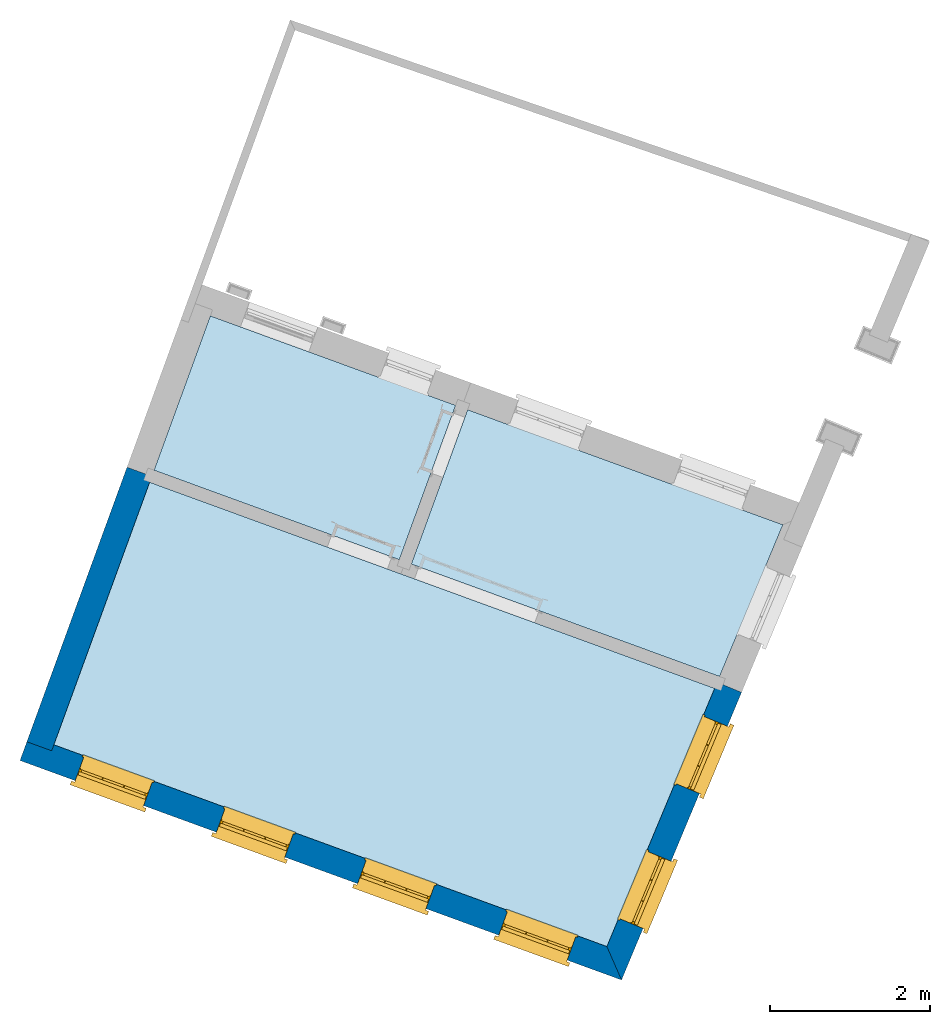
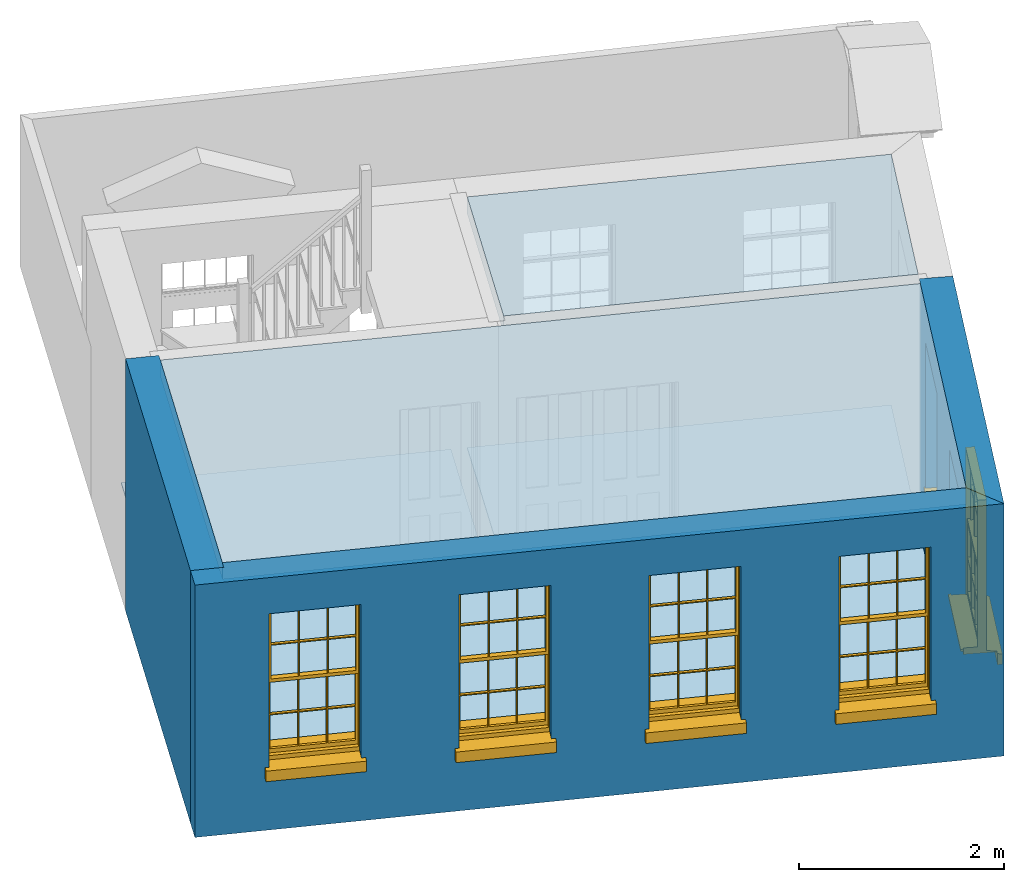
# One storey, part 1 of 6: 6 windows, 5 slabs, 3 walls, 6 openings.
"""IFC4 building model written with IfcOpenShell, lengths in metres."""

from ifc_helpers import new_model, si_unit, frame, origin, origin_with_axes, place, context, subcontext, project, spatial, polyline, outline, extrude, faceted_brep, source, transform, mapped, material, layer, layer_set, layer_usage, type_object, type_shapes, element, fill, save


model = new_model("IFC4")

# Units and contexts
model_context = context("Model", 3, world=origin_with_axes())
body_context = subcontext(model_context, "Body", "Model", "MODEL_VIEW")
ifc_project = project(units=[si_unit("PLANEANGLEUNIT", "RADIAN"), si_unit("MASSUNIT", "GRAM", prefix="KILO"), si_unit("FORCEUNIT", "NEWTON", prefix="KILO"), si_unit("LENGTHUNIT", "METRE"), si_unit("AREAUNIT", "SQUARE_METRE"), si_unit("VOLUMEUNIT", "CUBIC_METRE")], contexts=[model_context, model_context])

# Sites, building, storey
site_1_placement = place(None, origin_with_axes())
site_1 = spatial("IfcSite", under=ifc_project, at=site_1_placement, Name="Tamar")
site_2_placement = place(site_1_placement, origin_with_axes())
site_2 = spatial("IfcSite", under=site_1, at=site_2_placement, Name="Site plot-13", CompositionType="ELEMENT")
building_placement = place(None, origin_with_axes())
building = spatial("IfcBuilding", under=site_2, at=building_placement, Name="Building plot-13", CompositionType="ELEMENT")
storey_placement = place(None, frame((0.0, 0.0, 26.0), z_axis=(0.0, 0.0, 1.0), x_axis=(1.0, 0.0, 0.0)))
storey = spatial("IfcBuildingStorey", under=building, at=storey_placement, Name="plot-13 0", CompositionType="ELEMENT", Elevation=26.0)

# Slabs
slab_1_placement = place(storey_placement, frame((245.701009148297, 301.023785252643, 0.0)))
element("IfcSlab", 1, at=slab_1_placement, inside=storey, Name="My Slab", ObjectType="Slab", PredefinedType="FLOOR", context=body_context, shape_type="SweptSolid", body=[
    extrude(outline(polyline([(0.0, 0.0), (0.703407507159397, 1.92803364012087), (-2.36094619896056, 3.04600656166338), (-3.06435370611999, 1.11797292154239), (0.0, 0.0)])), origin_with_axes(), (0.0, 0.0, 1.0), 0.02),
])
slab_2_placement = place(storey_placement, frame((245.851318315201, 300.968947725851, 2.8)))
element("IfcSlab", 2, at=slab_2_placement, inside=storey, Name="My Slab", ObjectType="Slab", PredefinedType="FLOOR", context=body_context, shape_type="SweptSolid", body=[
    extrude(outline(polyline([(0.0, 0.0), (3.85091988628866, -1.40493708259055), (4.64220016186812, 0.491037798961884), (0.703407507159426, 1.92803364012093), (0.0, 0.0)])), origin_with_axes(), (0.0, 0.0, 1.0), 0.2),
])
slab_3_placement = place(storey_placement, frame((245.851318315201, 300.968947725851, 0.0)))
element("IfcSlab", 3, at=slab_3_placement, inside=storey, Name="My Slab", ObjectType="Slab", PredefinedType="FLOOR", context=body_context, shape_type="SweptSolid", body=[
    extrude(outline(polyline([(0.0, 0.0), (3.85091988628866, -1.40493708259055), (4.64220016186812, 0.491037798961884), (0.703407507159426, 1.92803364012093), (0.0, 0.0)])), origin_with_axes(), (0.0, 0.0, 1.0), 0.02),
])
slab_4_placement = place(storey_placement, frame((241.385160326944, 298.711421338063, 2.8)))
element("IfcSlab", 4, at=slab_4_placement, inside=storey, Name="My Slab", ObjectType="Slab", PredefinedType="FLOOR", context=body_context, shape_type="SweptSolid", body=[
    extrude(outline(polyline([(0.0, 0.0), (6.90924046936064, -2.52070893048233), (8.25538980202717, 0.704779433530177), (1.19665758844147, 3.28002766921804), (0.0, 0.0)])), origin_with_axes(), (0.0, 0.0, 1.0), 0.2),
])
slab_5_placement = place(storey_placement, frame((241.385160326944, 298.711421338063, 0.0)))
element("IfcSlab", 5, at=slab_5_placement, inside=storey, Name="My Slab", ObjectType="Slab", PredefinedType="FLOOR", context=body_context, shape_type="SweptSolid", body=[
    extrude(outline(polyline([(0.0, 0.0), (6.90924046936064, -2.52070893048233), (8.25538980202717, 0.704779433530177), (1.19665758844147, 3.28002766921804), (0.0, 0.0)])), origin_with_axes(), (0.0, 0.0, 1.0), 0.02),
])

# Wall, openings, windows
ifc_material_1 = material(Name="Masonry")
ifc_layer_1 = layer(ifc_material_1, 0.33, ventilated=False)
ifc_layer_set_1 = layer_set([ifc_layer_1], Name="exterior_0.08_0.25")
ifc_layer_usage_1 = layer_usage(ifc_layer_set_1, "AXIS2", "POSITIVE", -0.25)
wall_type_1 = type_object("IfcWallType", Name="exterior_0.08_0.25", PredefinedType="SOLIDWALL", material=ifc_layer_set_1)
wall_1_placement = place(storey_placement, frame((241.282586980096, 298.663685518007, 0.0), z_axis=(0.0, 0.0, 1.0), x_axis=(0.939432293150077, -0.342734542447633, 0.0)))
wall_1 = element("IfcWall", 6, at=wall_1_placement, inside=storey, type_object=wall_type_1, material=ifc_layer_usage_1, Name="exterior", context=body_context, shape_type="SweptSolid", body=[
    extrude(outline(polyline([(-0.249999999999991, 0.0800000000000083), (-0.249999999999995, -0.249999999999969), (7.74999999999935, -0.250000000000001), (7.43469763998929, 0.0800000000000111), (-0.249999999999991, 0.0800000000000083)])), origin_with_axes(), (0.0, 0.0, 1.0), 3.0),
])
opening_1_placement = place(wall_1_placement, frame((0.483891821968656, 0.0, 0.75)))
opening_1 = element("IfcOpeningElement", 7, at=opening_1_placement, cuts=wall_1, Name="My Opening", ObjectType="Opening", context=body_context, shape_type="SweptSolid", body=[
    extrude(outline(polyline([(0.0, -0.270000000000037), (0.910000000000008, -0.270000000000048), (0.909999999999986, 1.1), (-2.27595720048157e-14, 1.10000000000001), (0.0, -0.270000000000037)])), origin_with_axes(), (0.0, 0.0, 1.0), 1.82),
])
opening_2_placement = place(wall_1_placement, frame((2.36167546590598, 0.0, 0.75)))
opening_2 = element("IfcOpeningElement", 8, at=opening_2_placement, cuts=wall_1, Name="My Opening", ObjectType="Opening", context=body_context, shape_type="SweptSolid", body=[
    extrude(outline(polyline([(0.0, -0.270000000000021), (0.910000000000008, -0.270000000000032), (0.909999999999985, 1.10000000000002), (-2.26485497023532e-14, 1.10000000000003), (0.0, -0.270000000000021)])), origin_with_axes(), (0.0, 0.0, 1.0), 1.82),
])
opening_3_placement = place(wall_1_placement, frame((4.23945910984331, 0.0, 0.75)))
opening_3 = element("IfcOpeningElement", 9, at=opening_3_placement, cuts=wall_1, Name="My Opening", ObjectType="Opening", context=body_context, shape_type="SweptSolid", body=[
    extrude(outline(polyline([(0.0, -0.270000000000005), (0.910000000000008, -0.270000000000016), (0.909999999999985, 1.10000000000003), (-2.39808173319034e-14, 1.10000000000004), (0.0, -0.270000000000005)])), origin_with_axes(), (0.0, 0.0, 1.0), 1.82),
])
opening_4_placement = place(wall_1_placement, frame((6.11724275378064, 0.0, 0.75)))
opening_4 = element("IfcOpeningElement", 10, at=opening_4_placement, cuts=wall_1, Name="My Opening", ObjectType="Opening", context=body_context, shape_type="SweptSolid", body=[
    extrude(outline(polyline([(0.0, -0.269999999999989), (0.910000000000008, -0.270000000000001), (0.909999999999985, 1.10000000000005), (-2.30926389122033e-14, 1.10000000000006), (0.0, -0.269999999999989)])), origin_with_axes(), (0.0, 0.0, 1.0), 1.82),
])
window_type = type_object("IfcWindowType", Name="sash_big", PartitioningType="DOUBLE_PANEL_HORIZONTAL", PredefinedType="NOTDEFINED")
shared_shape = source(origin(), body_context, "Body", "Brep", [
    faceted_brep([(0.033125, 0.145, 0.975209), (0.01, 0.145, 0.975209), (0.033125, 0.145, 1.376042), (0.876875, 0.145, 0.975209), (0.876875, 0.145, 1.376042), (0.9, 0.145, 0.975209), (0.876875, 0.145, 1.386042), (0.876875, 0.145, 1.786875), (0.9, 0.145, 1.81), (0.033125, 0.145, 1.786875), (0.033125, 0.145, 1.386042), (0.01, 0.145, 1.81), (0.876875, 0.115, 1.376042), (0.876875, 0.115, 0.975209), (0.9, 0.115, 0.937083), (0.033125, 0.115, 1.786875), (0.01, 0.115, 1.81), (0.033125, 0.115, 1.386042), (0.01, 0.115, 0.937083), (0.033125, 0.115, 0.975209), (0.033125, 0.115, 1.376042), (0.876875, 0.115, 1.786875), (0.876875, 0.115, 1.386042), (0.9, 0.115, 1.81), (0.033125, 0.145, 0.937083), (0.01, 0.145, 0.937083), (0.033125, 0.145, 0.53625), (0.876875, 0.145, 0.937083), (0.876875, 0.145, 0.53625), (0.9, 0.145, 0.937083), (0.876875, 0.145, 0.52625), (0.876875, 0.145, 0.125417), (0.9, 0.145, 0.077167), (0.033125, 0.145, 0.125417), (0.033125, 0.145, 0.52625), (0.01, 0.145, 0.077167), (-0.0425, 0.0, 0.01), (-0.0425, -0.05, 0.001667), (0.0, 0.0, 0.01), (0.9525, 0.0, 0.01), (0.91, 0.0, 0.01), (0.9525, -0.05, 0.001667), (-0.02, 0.33, 0.077167), (0.0, 0.33, 0.077167), (-0.02, 0.36, 0.077167), (0.0, 0.19, 0.077167), (0.01, 0.19, 0.077167), (0.91, 0.19, 0.077167), (0.91, 0.33, 0.077167), (0.9, 0.19, 0.077167), (0.93, 0.33, 0.077167), (0.93, 0.36, 0.077167), (0.01, 0.175, 0.975209), (0.9, 0.175, 0.975209), (0.876875, 0.175, 0.125417), (0.876875, 0.175, 0.52625), (0.9, 0.175, 0.077167), (0.876875, 0.175, 0.53625), (0.876875, 0.175, 0.937083), (0.033125, 0.175, 0.125417), (0.01, 0.175, 0.077167), (0.033125, 0.175, 0.52625), (0.033125, 0.175, 0.937083), (0.033125, 0.175, 0.53625), (-0.02, 0.33, 0.052167), (-0.02, 0.36, 0.052167), (0.93, 0.36, 0.052167), (0.93, 0.33, 0.052167), (0.91, 0.33, 0.052167), (0.0, 0.33, 0.052167), (0.91, 0.1, 0.026667), (0.0, 0.1, 0.026667), (-0.0425, -0.05, -0.123333), (0.9525, -0.05, -0.123333), (-0.0425, 0.0, -0.123333), (0.9525, 0.0, -0.123333), (0.01, 0.19, 1.81), (0.9, 0.19, 1.81), (0.0, 0.19, 1.82), (0.91, 0.19, 1.82), (0.01, 0.1, 0.077167), (0.9, 0.1, 0.077167), (0.592292, 0.145, 0.125417), (0.592292, 0.175, 0.125417), (0.317708, 0.175, 0.125417), (0.317708, 0.145, 0.125417), (0.592292, 0.145, 0.53625), (0.317708, 0.145, 0.53625), (0.317708, 0.145, 0.52625), (0.592292, 0.145, 0.52625), (0.592292, 0.175, 0.53625), (0.317708, 0.175, 0.53625), (0.592292, 0.115, 1.386042), (0.592292, 0.145, 1.386042), (0.317708, 0.145, 1.386042), (0.317708, 0.115, 1.386042), (0.317708, 0.115, 1.376042), (0.592292, 0.115, 1.376042), (0.317708, 0.145, 1.376042), (0.592292, 0.145, 1.376042), (0.602292, 0.115, 1.376042), (0.592292, 0.115, 0.975209), (0.602292, 0.115, 0.975209), (0.602292, 0.145, 0.975209), (0.592292, 0.145, 0.975209), (0.602292, 0.145, 1.376042), (0.602292, 0.175, 0.53625), (0.602292, 0.145, 0.53625), (0.317708, 0.175, 0.52625), (0.307708, 0.175, 0.125417), (0.307708, 0.175, 0.52625), (0.602292, 0.175, 0.52625), (0.602292, 0.175, 0.125417), (0.592292, 0.175, 0.52625), (0.307708, 0.175, 0.53625), (0.317708, 0.175, 0.937083), (0.307708, 0.175, 0.937083), (0.602292, 0.175, 0.937083), (0.592292, 0.175, 0.937083), (0.307708, 0.145, 0.52625), (0.307708, 0.145, 0.125417), (0.307708, 0.145, 0.53625), (0.307708, 0.145, 0.937083), (0.592292, 0.145, 0.937083), (0.317708, 0.145, 0.937083), (0.602292, 0.145, 0.937083), (0.602292, 0.145, 0.52625), (0.602292, 0.145, 0.125417), (0.307708, 0.115, 1.386042), (0.307708, 0.115, 1.376042), (0.307708, 0.115, 0.975209), (0.317708, 0.115, 0.975209), (0.317708, 0.115, 1.786875), (0.307708, 0.115, 1.786875), (0.602292, 0.115, 1.786875), (0.592292, 0.115, 1.786875), (0.602292, 0.115, 1.386042), (0.602292, 0.145, 1.386042), (0.307708, 0.145, 1.386042), (0.307708, 0.145, 1.786875), (0.317708, 0.145, 1.786875), (0.592292, 0.145, 1.786875), (0.602292, 0.145, 1.786875), (0.307708, 0.145, 1.376042), (0.317708, 0.145, 0.975209), (0.307708, 0.145, 0.975209), (0.91, 0.1, 1.82), (0.9, 0.1, 1.81), (0.01, 0.1, 1.81), (0.0, 0.1, 1.82), (0.91, 0.0, 0.0), (0.0, 0.0, 0.0), (0.91, 0.33, 0.0), (0.0, 0.33, 0.0)], [[[0, 1, 2]], [[3, 4, 5]], [[6, 7, 8]], [[9, 10, 11]], [[12, 13, 14]], [[15, 16, 17]], [[18, 19, 20]], [[21, 22, 23]], [[24, 25, 26]], [[27, 28, 29]], [[30, 31, 32]], [[33, 34, 35]], [[14, 27, 29]], [[25, 24, 18]], [[36, 37, 38]], [[39, 40, 41]], [[42, 43, 44]], [[45, 46, 43]], [[47, 48, 49]], [[50, 51, 48]], [[1, 0, 52]], [[5, 53, 3]], [[54, 55, 56]], [[57, 58, 53]], [[59, 60, 61]], [[62, 63, 52]], [[48, 43, 46, 49]], [[51, 44, 43, 48]], [[64, 42, 44, 65]], [[65, 44, 51, 66]], [[66, 51, 50, 67]], [[65, 66, 68, 69]], [[60, 56, 49, 46]], [[70, 71, 38, 40]], [[37, 41, 40, 38]], [[37, 72, 73, 41]], [[74, 75, 73, 72]], [[8, 11, 76, 77]], [[76, 78, 79, 77]], [[32, 35, 80, 81]], [[81, 80, 71, 70]], [[82, 83, 84, 85]], [[86, 87, 88, 89]], [[86, 90, 91, 87]], [[92, 93, 94, 95]], [[92, 95, 96, 97]], [[96, 98, 99, 97]], [[100, 97, 101, 102]], [[103, 104, 99, 105]], [[97, 99, 104, 101]], [[102, 103, 105, 100]], [[28, 57, 106, 107]], [[108, 84, 109, 110]], [[111, 112, 83, 113]], [[114, 110, 61, 63]], [[90, 113, 108, 91]], [[115, 91, 114, 116]], [[117, 106, 90, 118]], [[111, 106, 57, 55]], [[119, 110, 109, 120]], [[34, 61, 110, 119]], [[89, 113, 83, 82]], [[88, 108, 113, 89]], [[85, 84, 108, 88]], [[121, 114, 63, 26]], [[122, 116, 114, 121]], [[123, 118, 90, 86]], [[87, 91, 115, 124]], [[107, 106, 117, 125]], [[126, 111, 55, 30]], [[127, 112, 111, 126]], [[126, 30, 28, 107]], [[88, 119, 120, 85]], [[126, 89, 82, 127]], [[125, 123, 86, 107]], [[121, 26, 34, 119]], [[124, 122, 121, 87]], [[128, 17, 20, 129]], [[96, 129, 130, 131]], [[132, 133, 128, 95]], [[134, 135, 92, 136]], [[100, 12, 22, 136]], [[137, 6, 4, 105]], [[94, 138, 139, 140]], [[137, 93, 141, 142]], [[99, 98, 94, 93]], [[143, 2, 10, 138]], [[144, 145, 143, 98]], [[129, 143, 145, 130]], [[20, 2, 143, 129]], [[131, 144, 98, 96]], [[128, 138, 10, 17]], [[133, 139, 138, 128]], [[135, 141, 93, 92]], [[95, 94, 140, 132]], [[22, 6, 137, 136]], [[136, 137, 142, 134]], [[100, 105, 4, 12]], [[107, 86, 89, 126]], [[106, 111, 113, 90]], [[91, 108, 110, 114]], [[87, 121, 119, 88]], [[97, 100, 136, 92]], [[129, 96, 95, 128]], [[98, 143, 138, 94]], [[105, 99, 93, 137]], [[131, 101, 104, 144]], [[124, 115, 118, 123]], [[132, 140, 141, 135]], [[120, 109, 59, 33]], [[15, 9, 139, 133]], [[134, 142, 7, 21]], [[31, 54, 112, 127]], [[36, 74, 72, 37]], [[39, 41, 73, 75]], [[18, 14, 101, 131]], [[23, 16, 132, 135]], [[83, 56, 60, 84]], [[52, 53, 118, 115]], [[53, 52, 144, 104]], [[11, 8, 141, 140]], [[14, 18, 124, 123]], [[2, 1, 11, 10]], [[8, 5, 4, 6]], [[57, 53, 56, 55]], [[60, 52, 63, 61]], [[26, 25, 35, 34]], [[32, 29, 28, 30]], [[14, 23, 22, 12]], [[18, 20, 17, 16]], [[19, 0, 2, 20]], [[17, 10, 9, 15]], [[12, 4, 3, 13]], [[21, 7, 6, 22]], [[27, 58, 57, 28]], [[30, 55, 54, 31]], [[33, 59, 61, 34]], [[26, 63, 62, 24]], [[5, 8, 77, 53]], [[76, 11, 1, 52]], [[46, 45, 78, 76]], [[49, 77, 79, 47]], [[70, 146, 147, 81]], [[71, 80, 148, 149]], [[19, 130, 145, 0]], [[102, 13, 3, 103]], [[116, 122, 24, 62]], [[29, 32, 81, 14]], [[80, 35, 25, 18]], [[60, 46, 76, 52]], [[77, 49, 56, 53]], [[23, 14, 81, 147]], [[16, 148, 80, 18]], [[35, 85, 120]], [[120, 33, 35]], [[127, 82, 32]], [[32, 31, 127]], [[32, 82, 85, 35]], [[102, 101, 14]], [[14, 13, 102]], [[18, 131, 130]], [[130, 19, 18]], [[134, 21, 23]], [[23, 135, 134]], [[16, 15, 133]], [[133, 132, 16]], [[11, 140, 139]], [[139, 9, 11]], [[142, 141, 8]], [[8, 7, 142]], [[23, 147, 148, 16]], [[146, 149, 148, 147]], [[52, 115, 116]], [[116, 62, 52]], [[118, 53, 117]], [[58, 117, 53]], [[27, 125, 117, 58]], [[56, 83, 112]], [[112, 54, 56]], [[109, 84, 60]], [[60, 59, 109]], [[125, 27, 14]], [[14, 123, 125]], [[122, 124, 18]], [[18, 24, 122]], [[145, 144, 52]], [[52, 0, 145]], [[103, 3, 53]], [[53, 104, 103]], [[79, 78, 149, 146]], [[78, 45, 71, 149]], [[146, 70, 47, 79]], [[150, 75, 74, 151]], [[68, 66, 67]], [[48, 68, 67, 50]], [[69, 64, 65]], [[42, 64, 69, 43]], [[69, 68, 152, 153]], [[70, 68, 48, 47]], [[150, 152, 68, 70]], [[43, 69, 71, 45]], [[69, 153, 151, 71]], [[152, 150, 151, 153]], [[38, 151, 74, 36]], [[71, 151, 38]], [[39, 75, 150, 40]], [[40, 150, 70]]]),
])
type_shapes(window_type, [shared_shape])
window_1_placement = place(storey_placement, frame((241.644632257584, 298.24419235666, 0.75), z_axis=(0.0, 0.0, 1.0), x_axis=(0.854883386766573, -0.31188843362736, 0.0)))
window_1 = element("IfcWindow", 11, at=window_1_placement, inside=storey, type_object=window_type, Name="living street window", OverallHeight=1.82, OverallWidth=0.91, context=body_context, shape_type="MappedRepresentation", body=[
    mapped(shared_shape, transform((0.0, 0.0, 0.0), scale=1.0)),
])
fill(opening_1, window_1)
window_2_placement = place(storey_placement, frame((243.408682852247, 297.600611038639, 0.75), z_axis=(0.0, 0.0, 1.0), x_axis=(0.854883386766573, -0.31188843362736, 0.0)))
window_2 = element("IfcWindow", 12, at=window_2_placement, inside=storey, type_object=window_type, Name="living street window", OverallHeight=1.82, OverallWidth=0.91, context=body_context, shape_type="MappedRepresentation", body=[
    mapped(shared_shape, transform((0.0, 0.0, 0.0), scale=1.0)),
])
fill(opening_2, window_2)
window_3_placement = place(storey_placement, frame((245.172733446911, 296.957029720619, 0.75), z_axis=(0.0, 0.0, 1.0), x_axis=(0.854883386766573, -0.31188843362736, 0.0)))
window_3 = element("IfcWindow", 13, at=window_3_placement, inside=storey, type_object=window_type, Name="living street window", OverallHeight=1.82, OverallWidth=0.91, context=body_context, shape_type="MappedRepresentation", body=[
    mapped(shared_shape, transform((0.0, 0.0, 0.0), scale=1.0)),
])
fill(opening_3, window_3)
window_4_placement = place(storey_placement, frame((246.936784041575, 296.313448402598, 0.75), z_axis=(0.0, 0.0, 1.0), x_axis=(0.854883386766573, -0.31188843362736, 0.0)))
window_4 = element("IfcWindow", 14, at=window_4_placement, inside=storey, type_object=window_type, Name="living street window", OverallHeight=1.82, OverallWidth=0.91, context=body_context, shape_type="MappedRepresentation", body=[
    mapped(shared_shape, transform((0.0, 0.0, 0.0), scale=1.0)),
])
fill(opening_4, window_4)

wall_2_placement = place(storey_placement, frame((248.338789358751, 296.089360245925, 0.0), z_axis=(0.0, 0.0, 1.0), x_axis=(0.385150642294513, 0.922853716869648, 0.0)))
wall_2 = element("IfcWall", 15, at=wall_2_placement, inside=storey, type_object=wall_type_1, material=ifc_layer_usage_1, Name="exterior", context=body_context, shape_type="SweptSolid", body=[
    extrude(outline(polyline([(0.0764369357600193, 0.0800000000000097), (-0.238865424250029, -0.250000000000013), (3.65529029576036, -0.250000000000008), (3.65529029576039, 0.0799999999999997), (0.0764369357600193, 0.0800000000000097)])), origin_with_axes(), (0.0, 0.0, 1.0), 3.0),
])
opening_5_placement = place(wall_2_placement, frame((0.458822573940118, 0.0, 0.75)))
opening_5 = element("IfcOpeningElement", 16, at=opening_5_placement, cuts=wall_2, Name="My Opening", ObjectType="Opening", context=body_context, shape_type="SweptSolid", body=[
    extrude(outline(polyline([(0.0, -0.269999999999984), (0.910000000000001, -0.269999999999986), (0.909999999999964, 1.09999999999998), (-3.64708263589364e-14, 1.09999999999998), (0.0, -0.269999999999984)])), origin_with_axes(), (0.0, 0.0, 1.0), 1.82),
])
opening_6_placement = place(wall_2_placement, frame((2.28646772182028, 0.0, 0.75)))
opening_6 = element("IfcOpeningElement", 17, at=opening_6_placement, cuts=wall_2, Name="My Opening", ObjectType="Opening", context=body_context, shape_type="SweptSolid", body=[
    extrude(outline(polyline([(0.0, -0.270000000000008), (0.910000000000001, -0.27000000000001), (0.909999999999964, 1.09999999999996), (-3.64153152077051e-14, 1.09999999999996), (0.0, -0.270000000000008)])), origin_with_axes(), (0.0, 0.0, 1.0), 1.82),
])
window_5_placement = place(storey_placement, frame((248.764675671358, 296.40879569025, 0.75), z_axis=(0.0, 0.0, 1.0), x_axis=(0.350487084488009, 0.839796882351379, 0.0)))
window_5 = element("IfcWindow", 18, at=window_5_placement, inside=storey, type_object=window_type, Name="living street window", OverallHeight=1.82, OverallWidth=0.91, context=body_context, shape_type="MappedRepresentation", body=[
    mapped(shared_shape, transform((0.0, 0.0, 0.0), scale=1.0)),
])
fill(opening_5, window_5)
window_6_placement = place(storey_placement, frame((249.468594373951, 298.09544480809, 0.75), z_axis=(0.0, 0.0, 1.0), x_axis=(0.350487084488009, 0.839796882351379, 0.0)))
window_6 = element("IfcWindow", 19, at=window_6_placement, inside=storey, type_object=window_type, Name="living street window", OverallHeight=1.82, OverallWidth=0.91, context=body_context, shape_type="MappedRepresentation", body=[
    mapped(shared_shape, transform((0.0, 0.0, 0.0), scale=1.0)),
])
fill(opening_6, window_6)

# Wall
ifc_material_2 = material(Name="Masonry")
ifc_layer_2 = layer(ifc_material_2, 0.33, ventilated=False)
ifc_layer_set_2 = layer_set([ifc_layer_2], Name="party_0.08_0.25")
ifc_layer_usage_2 = layer_usage(ifc_layer_set_2, "AXIS2", "POSITIVE", -0.25)
wall_type_2 = type_object("IfcWallType", Name="party_0.08_0.25", PredefinedType="SOLIDWALL", material=ifc_layer_set_2)
wall_3_placement = place(storey_placement, frame((242.534082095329, 302.094022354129, 0.0), z_axis=(0.0, 0.0, 1.0), x_axis=(-0.342734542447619, -0.939432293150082, 0.0)))
element("IfcWall", 20, at=wall_3_placement, inside=storey, type_object=wall_type_2, material=ifc_layer_usage_2, Name="party", context=body_context, shape_type="SweptSolid", body=[
    extrude(outline(polyline([(-5.24527496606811e-14, 0.0799999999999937), (9.09425738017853e-14, -0.249999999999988), (3.65149980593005, -0.250000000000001), (3.65149980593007, 0.0800000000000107), (-5.24527496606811e-14, 0.0799999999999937)])), origin_with_axes(), (0.0, 0.0, 1.0), 3.0),
])

save(model, "model.ifc")
